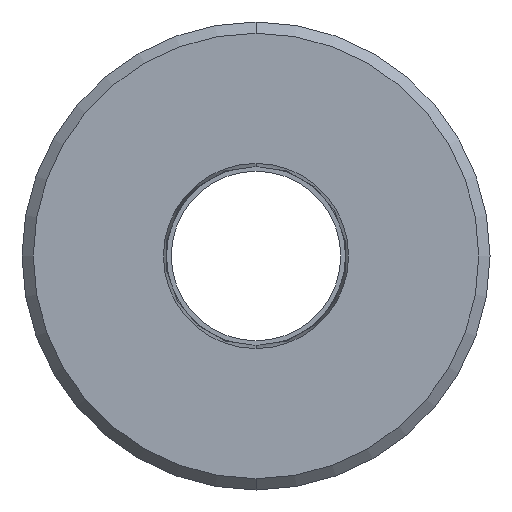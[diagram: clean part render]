
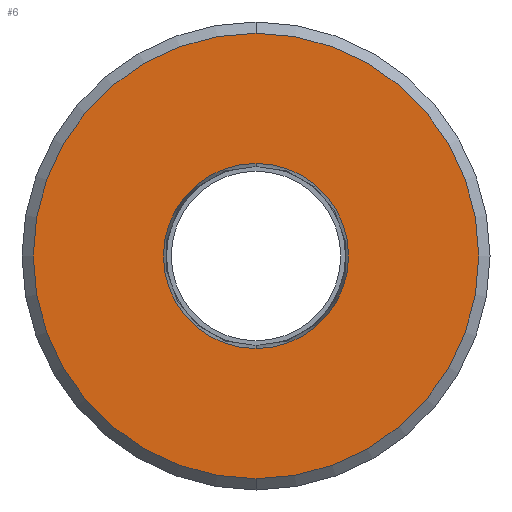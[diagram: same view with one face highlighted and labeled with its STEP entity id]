
A CAD part, front view. The second image highlights one B-rep face of the part: STEP entity #6.
In plain terms, the highlighted planar face has unit normal (0, -1, 0).
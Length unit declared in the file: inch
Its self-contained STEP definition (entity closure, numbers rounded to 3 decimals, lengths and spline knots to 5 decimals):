
#6 = ADVANCED_FACE ( 'NONE', ( #229, #35 ), #96, .F. ) ;
#35 = FACE_BOUND ( 'NONE', #111, .T. ) ;
#42 = CARTESIAN_POINT ( 'NONE',  ( 0., 0., 0. ) ) ;
#96 = PLANE ( 'NONE',  #655 ) ;
#111 = EDGE_LOOP ( 'NONE', ( #865, #350 ) ) ;
#112 = DIRECTION ( 'NONE',  ( 0., 0., -1. ) ) ;
#131 = CARTESIAN_POINT ( 'NONE',  ( 0., 0., 1.19 ) ) ;
#150 = CIRCLE ( 'NONE', #310, 1.19 ) ;
#156 = CARTESIAN_POINT ( 'NONE',  ( 0., 0., 0. ) ) ;
#163 = CIRCLE ( 'NONE', #222, 0.49434 ) ;
#164 = DIRECTION ( 'NONE',  ( 0., -1., 0. ) ) ;
#222 = AXIS2_PLACEMENT_3D ( 'NONE', #579, #164, #634 ) ;
#228 = DIRECTION ( 'NONE',  ( 0., 0., 1. ) ) ;
#229 = FACE_OUTER_BOUND ( 'NONE', #478, .T. ) ;
#243 = DIRECTION ( 'NONE',  ( 0., 1., 0. ) ) ;
#306 = DIRECTION ( 'NONE',  ( 0., -1., 0. ) ) ;
#308 = ORIENTED_EDGE ( 'NONE', *, *, #792, .T. ) ;
#310 = AXIS2_PLACEMENT_3D ( 'NONE', #156, #626, #228 ) ;
#312 = DIRECTION ( 'NONE',  ( 0., 0., 1. ) ) ;
#341 = CIRCLE ( 'NONE', #564, 1.19 ) ;
#345 = AXIS2_PLACEMENT_3D ( 'NONE', #42, #531, #112 ) ;
#350 = ORIENTED_EDGE ( 'NONE', *, *, #749, .F. ) ;
#359 = EDGE_CURVE ( 'NONE', #607, #603, #341, .T. ) ;
#384 = CARTESIAN_POINT ( 'NONE',  ( 0., 0., 0. ) ) ;
#390 = ORIENTED_EDGE ( 'NONE', *, *, #359, .T. ) ;
#414 = CARTESIAN_POINT ( 'NONE',  ( 0., 0., -0.49434 ) ) ;
#475 = CARTESIAN_POINT ( 'NONE',  ( 0., 0., 0.49434 ) ) ;
#478 = EDGE_LOOP ( 'NONE', ( #390, #308 ) ) ;
#483 = CIRCLE ( 'NONE', #345, 0.49434 ) ;
#531 = DIRECTION ( 'NONE',  ( 0., -1., 0. ) ) ;
#548 = CARTESIAN_POINT ( 'NONE',  ( 0., 0., -1.19 ) ) ;
#564 = AXIS2_PLACEMENT_3D ( 'NONE', #705, #306, #776 ) ;
#579 = CARTESIAN_POINT ( 'NONE',  ( 0., 0., 0. ) ) ;
#591 = VERTEX_POINT ( 'NONE', #414 ) ;
#603 = VERTEX_POINT ( 'NONE', #548 ) ;
#607 = VERTEX_POINT ( 'NONE', #131 ) ;
#626 = DIRECTION ( 'NONE',  ( 0., -1., 0. ) ) ;
#634 = DIRECTION ( 'NONE',  ( 0., 0., -1. ) ) ;
#655 = AXIS2_PLACEMENT_3D ( 'NONE', #384, #243, #312 ) ;
#700 = VERTEX_POINT ( 'NONE', #475 ) ;
#705 = CARTESIAN_POINT ( 'NONE',  ( 0., 0., 0. ) ) ;
#749 = EDGE_CURVE ( 'NONE', #700, #591, #483, .T. ) ;
#776 = DIRECTION ( 'NONE',  ( 0., 0., 1. ) ) ;
#792 = EDGE_CURVE ( 'NONE', #603, #607, #150, .T. ) ;
#865 = ORIENTED_EDGE ( 'NONE', *, *, #899, .F. ) ;
#899 = EDGE_CURVE ( 'NONE', #591, #700, #163, .T. ) ;
